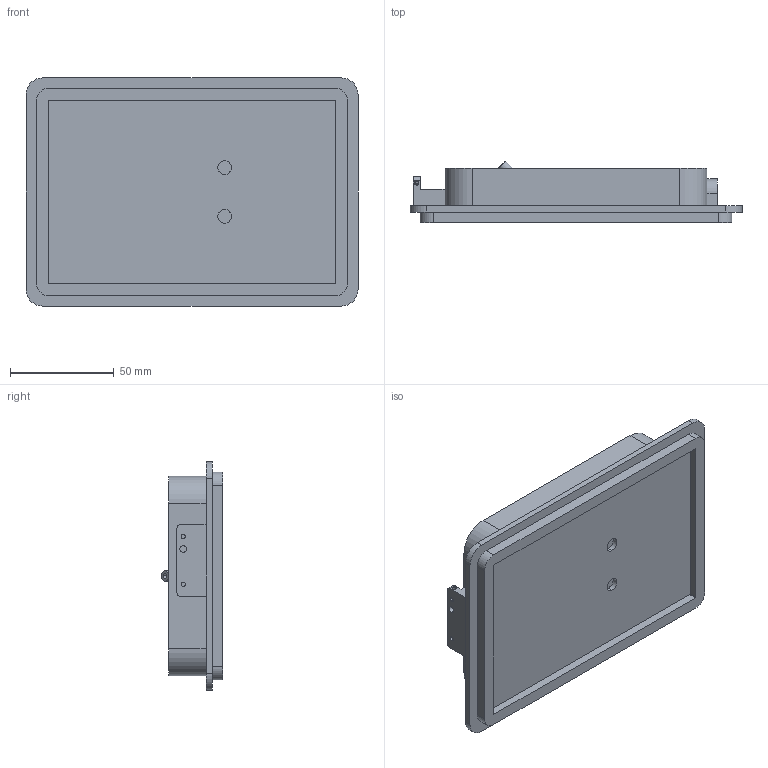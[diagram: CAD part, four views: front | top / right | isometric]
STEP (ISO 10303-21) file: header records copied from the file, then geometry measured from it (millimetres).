
FILE_DESCRIPTION (( 'STEP AP203' ), '1' );
FILE_NAME ('Fish Chamber.STEP', '2026-07-10T03:18:55', ( '' ), ( '' ), 'SwSTEP 2.0', 'SolidWorks 2019', '' );
FILE_SCHEMA (( 'CONFIG_CONTROL_DESIGN' ));
Length unit declared in the file: millimetre
Products named in the file (1): Fish Chamber
Bounding box: 159.77 x 29.54 x 109.73 mm (x, y, z)
Volume: 114838.4 mm3; surface area: 68002.1 mm2
Topology: 1 solids, 1 shells, 168 faces, 456 edges, 297 vertices
Faces by surface type: plane 86, cylinder 74, torus 4, cone 4
Entity records: 5516 total; most frequent: CARTESIAN_POINT 1038, DIRECTION 939, ORIENTED_EDGE 912, EDGE_CURVE 456, AXIS2_PLACEMENT_3D 324, VERTEX_POINT 297, VECTOR 291, LINE 291
